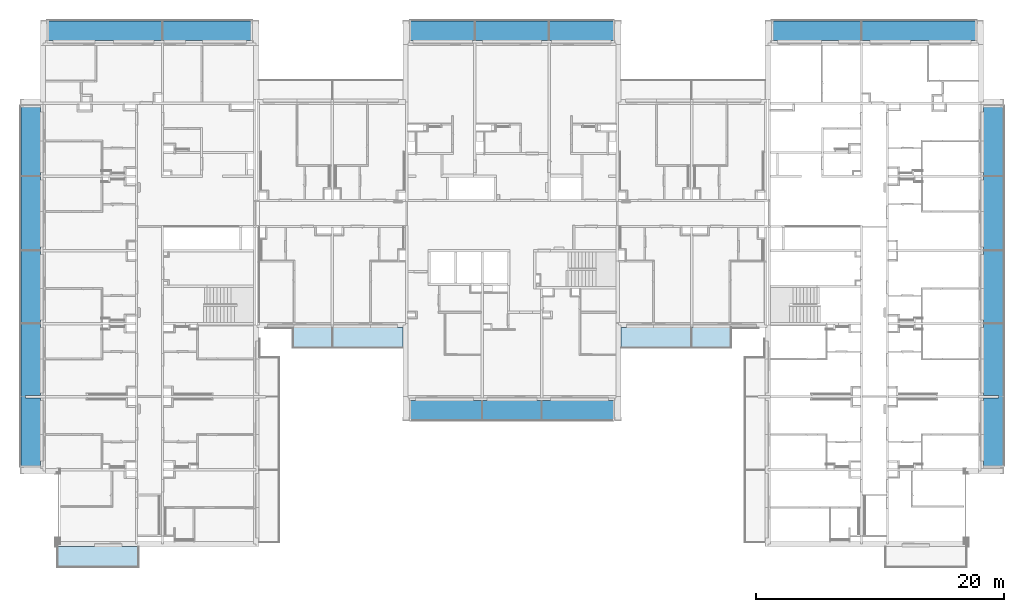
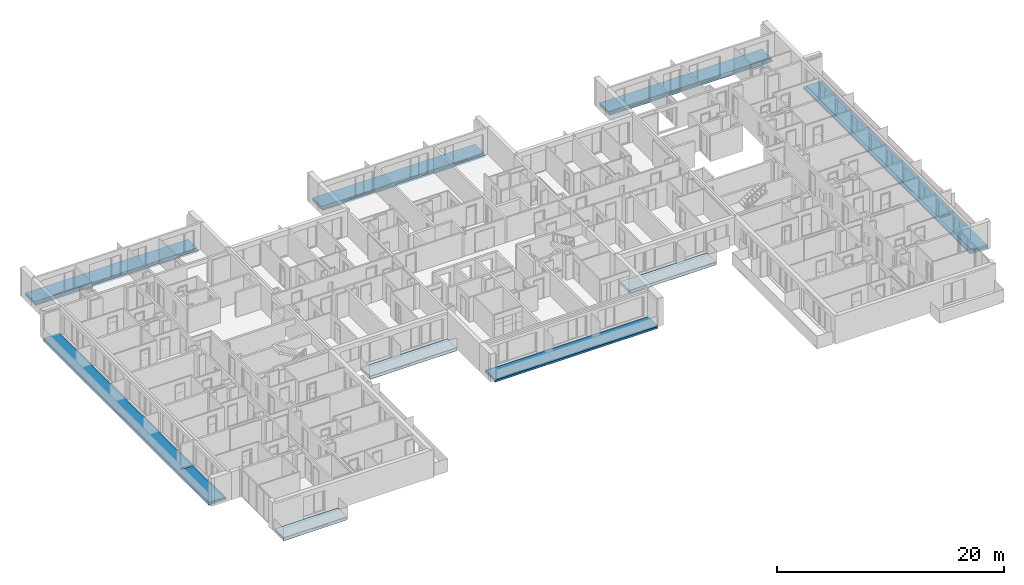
# One storey, part 1 of 66: 6 beams, 3 slabs.
"""IFC2X3 building model written with IfcOpenShell, lengths in millimetres."""

from ifc_helpers import new_model, entity, si_unit, converted_unit, derived_unit, money_unit, direction, frame, origin_with_axes, place, context, subcontext, project, spatial, faceted_brep, material, material_list, type_object, element, save


model = new_model("IFC2X3")

# Units and contexts
model_context = context("Model", 3, precision=0.01, world=origin_with_axes(), true_north=direction((0.34421633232, 0.938890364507)))
body_context = subcontext(model_context, "Body", "Model", "MODEL_VIEW")
ifc_project = project(units=[si_unit("LENGTHUNIT", "METRE", prefix="MILLI"), si_unit("AREAUNIT", "SQUARE_METRE"), si_unit("VOLUMEUNIT", "CUBIC_METRE"), converted_unit("PLANEANGLEUNIT", "DEGREE", entity("IfcPlaneAngleMeasure", 0.0174532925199), si_unit("PLANEANGLEUNIT", "RADIAN"), dimensions=[0, 0, 0, 0, 0, 0, 0]), si_unit("SOLIDANGLEUNIT", "STERADIAN"), money_unit("USD"), converted_unit("TIMEUNIT", "Year", entity("IfcTimeMeasure", 31556926.0), si_unit("TIMEUNIT", "SECOND"), dimensions=[0, 0, 1, 0, 0, 0, 0]), si_unit("MASSUNIT", "GRAM", prefix="KILO"), si_unit("THERMODYNAMICTEMPERATUREUNIT", "DEGREE_CELSIUS"), si_unit("LUMINOUSINTENSITYUNIT", "LUMEN"), si_unit("ENERGYUNIT", "JOULE", prefix="MEGA"), derived_unit("THERMALCONDUCTANCEUNIT", [(si_unit("POWERUNIT", "WATT"), 1), (si_unit("LENGTHUNIT", "METRE"), -1), (si_unit("THERMODYNAMICTEMPERATUREUNIT", "KELVIN"), -1)]), derived_unit("SPECIFICHEATCAPACITYUNIT", [(si_unit("ENERGYUNIT", "JOULE"), 1), (si_unit("MASSUNIT", "GRAM", prefix="KILO"), -1), (si_unit("THERMODYNAMICTEMPERATUREUNIT", "KELVIN"), -1)]), derived_unit("MASSDENSITYUNIT", [(si_unit("MASSUNIT", "GRAM", prefix="KILO"), 1), (si_unit("VOLUMEUNIT", "CUBIC_METRE"), -1)])], contexts=[model_context])

# Site, building, storey
site_placement = place(None, origin_with_axes())
site = spatial("IfcSite", under=ifc_project, at=site_placement, Name="USTRONIE MORSKIE", CompositionType="ELEMENT")
building_placement = place(site_placement, origin_with_axes())
building = spatial("IfcBuilding", under=site, at=building_placement, Name="Budynek", CompositionType="ELEMENT")
storey_placement = place(building_placement, frame((0.0, 0.0, 10000.0), z_axis=(0.0, 0.0, 1.0), x_axis=(1.0, 0.0, 0.0)))
storey = spatial("IfcBuildingStorey", under=building, at=storey_placement, Name="PIĘTRO 3", CompositionType="ELEMENT", Elevation=10000.0)

# Beams
ifc_material_1 = material(Name="Laminat")
ifc_material_2 = material(Name="Membrana przeciwwilgociowa")
ifc_material_3 = material(Name="Blacha ocynkowana")
ifc_material_4 = material(Name="Beton konstrukcyjny B25")
ifc_material_5 = material(Name="Płyty styropianowe twarde HIGH-PRIORITY")
ifc_material_list_1 = material_list([ifc_material_1, ifc_material_2, ifc_material_3, ifc_material_4, ifc_material_5])
beam_type = type_object("IfcBeamType", Name="USTR - balkon_02 1810 x 320", PredefinedType="NOTDEFINED")
beam_1_placement = place(storey_placement, frame((425357.789911, 749551.197031, -360.000001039), z_axis=(0.0, 0.0, 1.0), x_axis=(-9.14543761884e-06, 0.999999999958, 0.0)))
element("IfcBeam", 1, at=beam_1_placement, inside=storey, type_object=beam_type, material=ifc_material_list_1, Name="B1", context=body_context, shape_type="Brep", body=[
    faceted_brep([(1782.49979959, 16579.8526906, 214.999996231), (1782.49979959, 16579.8526906, 309.999996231), (1782.4997996, 0.0, 309.999996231), (1782.4997996, 0.0, 214.999996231), (214.999892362, 16579.867026, 309.999996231), (1757.49989236, 16579.8529192, 214.999996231), (1757.49989236, 16579.8529192, 284.999996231), (214.999892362, 16579.867026, 284.999996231), (214.999892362, 0.0, 309.999996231), (214.999892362, 0.0, 284.999996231), (1757.49989236, 0.0, 284.999996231), (1757.49989236, 0.0, 214.999996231)], [[[0, 1, 2, 3]], [[4, 1, 0, 5, 6, 7]], [[1, 4, 8, 2]], [[3, 2, 8, 9, 10, 11]], [[5, 0, 3, 11]], [[6, 5, 11, 10]], [[7, 6, 10, 9]], [[4, 7, 9, 8]]]),
    faceted_brep([(1799.99979832, 0.0, 209.999997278), (1799.99979832, 16580.0, 209.999997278), (199.999975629, 16580.0, 209.999997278), (199.999975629, 0.0, 209.999997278), (1799.99979832, 0.0, 200.000019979), (1799.99979832, 16580.0, 200.000019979), (199.999975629, 16580.0, 199.999995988), (199.999975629, 0.0, 199.999995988)], [[[0, 1, 2, 3]], [[4, 5, 1, 0]], [[2, 1, 5, 6]], [[3, 2, 6, 7]], [[4, 0, 3, 7]], [[7, 6, 5, 4]]]),
    faceted_brep([(1810.03048454, 0.0, 210.000001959), (1810.03048454, 16580.0, 210.000001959), (1799.99980792, 16580.0, 210.000001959), (1799.99980792, 0.0, 210.000001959), (1810.03048454, 0.0, -10.0000071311), (1810.03048454, 16580.0, -10.0000071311), (209.999402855, 16580.0, -10.0000071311), (209.999887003, 16580.0, 1.52888350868e-05), (1799.99980792, 16580.0, -1.01926307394e-05), (1799.99980792, 0.0, -1.01926307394e-05), (209.999887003, 0.0, 1.52888350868e-05), (209.999402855, 0.0, -10.0000071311)], [[[0, 1, 2, 3]], [[4, 5, 1, 0]], [[2, 1, 5, 6, 7, 8]], [[3, 2, 8, 9]], [[4, 0, 3, 9, 10, 11]], [[11, 6, 5, 4]], [[10, 7, 6, 11]], [[9, 8, 7, 10]]]),
    faceted_brep([(199.999996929, 16580.0, 200.000023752), (99.9999716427, 16580.0, 200.000023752), (99.9999716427, 0.0, 200.000023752), (199.999996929, 0.0, 200.000023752), (1799.99981143, 16580.0, 200.000023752), (1799.99981143, 16580.0, 0.0), (209.999887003, 16580.0, 1.52888350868e-05), (99.9999716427, 16580.0, 0.0), (99.9999716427, 0.0, 0.0), (209.999887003, 0.0, 1.52888350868e-05), (1799.99981143, 0.0, 0.0), (1799.99981143, 0.0, 200.000023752)], [[[0, 1, 2, 3]], [[0, 4, 5, 6, 7, 1]], [[1, 7, 8, 2]], [[3, 2, 8, 9, 10, 11]], [[4, 0, 3, 11]], [[5, 4, 11, 10]], [[6, 5, 10, 9]], [[7, 6, 9, 8]]]),
    faceted_brep([(99.9999724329, 16580.0, 200.000021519), (99.9999724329, 16580.0, 0.0), (0.15345995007, 16580.0, 0.0), (0.15345995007, 16580.0, 200.000021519), (99.9999724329, 0.0, 200.000021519), (99.9999724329, 0.0, 0.0), (1.13686837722e-10, 1215.21576018, 0.0), (0.0, 0.0, 0.0), (-4.76916284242e-06, 1214.39396994, 150.017925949), (1.13686837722e-10, 1215.21575847, 200.000021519), (0.0, 0.0, 200.000021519)], [[[0, 1, 2, 3]], [[1, 0, 4, 5]], [[6, 2, 1, 5, 7]], [[2, 6, 8, 9, 3]], [[0, 3, 9, 10, 4]], [[5, 4, 10, 7]], [[8, 6, 7, 10, 9]]]),
])
beam_2_placement = place(storey_placement, frame((425667.920835, 715201.199036, -360.000001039), z_axis=(0.0, 0.0, 1.0), x_axis=(1.0, 0.0, 0.0)))
element("IfcBeam", 2, at=beam_2_placement, inside=storey, type_object=beam_type, material=ifc_material_list_1, Name="P8", context=body_context, shape_type="Brep", body=[
    faceted_brep([(1420.00008423, 5700.0, 309.999996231), (214.999892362, 5700.0, 309.999996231), (214.999892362, 110.0, 309.999996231), (1782.4997996, 110.0, 309.999996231), (1782.4997996, 29290.0, 309.999996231), (214.999892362, 29290.0, 309.999996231), (214.999892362, 5900.0, 309.999996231), (1420.00008423, 5900.0, 309.999996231), (1420.00008423, 5700.0, 284.999996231), (214.999892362, 5700.0, 284.999996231), (214.999892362, 110.0, 284.999996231), (1782.4997996, 110.0, 214.999996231), (1757.49989236, 110.0, 284.999996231), (1757.49989236, 110.0, 214.999996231), (1782.4997996, 29290.0, 214.999996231), (1757.49989236, 29290.0, 214.999996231), (1757.49989236, 29290.0, 284.999996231), (214.999892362, 29290.0, 284.999996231), (214.999892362, 5900.0, 284.999996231), (1420.00008423, 5900.0, 284.999996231)], [[[0, 1, 2, 3, 4, 5, 6, 7]], [[1, 0, 8, 9]], [[1, 9, 10, 2]], [[11, 3, 2, 10, 12, 13]], [[14, 4, 3, 11]], [[5, 4, 14, 15, 16, 17]], [[18, 6, 5, 17]], [[7, 6, 18, 19]], [[0, 7, 19, 8]], [[19, 18, 17, 16, 12, 10, 9, 8]], [[16, 15, 13, 12]], [[15, 14, 11, 13]]]),
    faceted_brep([(1420.00008423, 5700.0, 209.999997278), (199.99997563, 5700.0, 209.999997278), (199.99997563, 0.0, 209.999997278), (1799.99979832, 0.0, 209.999997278), (1799.99979832, 29400.0, 209.999997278), (199.99997563, 29400.0, 209.999997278), (199.99997563, 5900.0, 209.999997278), (1420.00008423, 5900.0, 209.999997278), (1420.00008423, 5700.0, 200.000001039), (199.99997563, 5700.0, 200.000001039), (199.99997563, 0.0, 199.999995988), (1799.99979832, 0.0, 200.000019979), (1799.99979832, 29400.0, 200.000019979), (199.99997563, 29400.0, 199.999995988), (199.99997563, 5900.0, 200.000001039), (1420.00008423, 5900.0, 200.000001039)], [[[0, 1, 2, 3, 4, 5, 6, 7]], [[1, 0, 8, 9]], [[1, 9, 10, 2]], [[11, 3, 2, 10]], [[11, 12, 4, 3]], [[5, 4, 12, 13]], [[14, 6, 5, 13]], [[7, 6, 14, 15]], [[0, 7, 15, 8]], [[15, 14, 13, 12, 11, 10, 9, 8]]]),
    faceted_brep([(1420.00008423, 5700.0, 1.039014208e-06), (209.999887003, 5700.0, 1.039014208e-06), (209.999887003, 0.0, 1.52888350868e-05), (1799.99980792, 0.0, -1.01926307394e-05), (1799.99980792, 29400.0, -1.01926307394e-05), (209.999887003, 29400.0, 1.52888350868e-05), (209.999887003, 5900.0, 1.039014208e-06), (1420.00008423, 5900.0, 1.039014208e-06), (1420.00008423, 5700.0, -10.0000071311), (209.999402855, 5700.0, -10.0000071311), (209.999402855, 0.0, -10.0000071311), (1810.03048454, 0.0, -10.0000071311), (1810.03048454, 0.0, 210.000001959), (1799.99980792, 0.0, 210.000001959), (1799.99980792, 29400.0, 210.000001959), (1810.03048454, 29400.0, 210.000001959), (1810.03048454, 29400.0, -10.0000071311), (209.999402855, 29400.0, -10.0000071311), (209.999402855, 5900.0, -10.0000071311), (1420.00008423, 5900.0, -10.0000071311)], [[[0, 1, 2, 3, 4, 5, 6, 7]], [[1, 0, 8, 9]], [[1, 9, 10, 2]], [[11, 12, 13, 3, 2, 10]], [[13, 14, 4, 3]], [[14, 15, 16, 17, 5, 4]], [[18, 6, 5, 17]], [[7, 6, 18, 19]], [[0, 7, 19, 8]], [[19, 18, 17, 16, 11, 10, 9, 8]], [[11, 16, 15, 12]], [[12, 15, 14, 13]]]),
    faceted_brep([(199.999996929, 29400.0, 200.000023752), (99.9999716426, 29400.0, 200.000023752), (99.9999716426, 0.0, 200.000023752), (199.999996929, 0.0, 200.000023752), (1799.99981143, 29400.0, 200.000023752), (1799.99981143, 29400.0, 0.0), (209.999887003, 29400.0, 1.52888350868e-05), (99.9999716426, 29400.0, 0.0), (99.9999716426, 0.0, 0.0), (209.999887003, 0.0, 1.52888350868e-05), (1799.99981143, 0.0, 0.0), (1799.99981143, 0.0, 200.000023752)], [[[0, 1, 2, 3]], [[0, 4, 5, 6, 7, 1]], [[1, 7, 8, 2]], [[3, 2, 8, 9, 10, 11]], [[4, 0, 3, 11]], [[5, 4, 11, 10]], [[6, 5, 10, 9]], [[7, 6, 9, 8]]]),
    faceted_brep([(0.0, 0.0, 200.000021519), (0.0, 29400.0, 200.000021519), (0.0, 29400.0, 0.0), (0.0, 0.0, 0.0), (99.9999724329, 0.0, 200.000021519), (99.9999724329, 29400.0, 200.000021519), (99.9999724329, 29400.0, 0.0), (99.9999724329, 0.0, 0.0)], [[[0, 1, 2, 3]], [[4, 5, 1, 0]], [[2, 1, 5, 6]], [[3, 2, 6, 7]], [[4, 0, 3, 7]], [[7, 6, 5, 4]]]),
])
beam_3_placement = place(storey_placement, frame((349967.921003, 715311.199036, -360.000001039), z_axis=(0.0, 0.0, 1.0), x_axis=(1.0, 0.0, 0.0)))
element("IfcBeam", 3, at=beam_3_placement, inside=storey, type_object=beam_type, material=ifc_material_list_1, Name="P8", context=body_context, shape_type="Brep", body=[
    faceted_brep([(-214.999892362, 29180.0, 284.999996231), (-214.999892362, 29180.0, 309.999996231), (-214.999892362, 5790.0, 309.999996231), (-214.999892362, 5790.0, 284.999996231), (-1782.4997996, 29180.0, 309.999996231), (-1757.49989236, 29180.0, 284.999996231), (-1757.49989236, 29180.0, 214.999996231), (-1782.4997996, 29180.0, 214.999996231), (-1782.4997996, 0.0, 309.999996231), (-214.999892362, 0.0, 309.999996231), (-214.999892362, 5590.0, 309.999996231), (-1420.00008423, 5590.0, 309.999996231), (-1420.00008423, 5790.0, 309.999996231), (-1420.00008423, 5790.0, 284.999996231), (-1420.00008423, 5590.0, 284.999996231), (-214.999892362, 5590.0, 284.999996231), (-214.999892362, 0.0, 284.999996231), (-1757.49989236, 0.0, 284.999996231), (-1757.49989236, 0.0, 214.999996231), (-1782.4997996, 0.0, 214.999996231)], [[[0, 1, 2, 3]], [[4, 1, 0, 5, 6, 7]], [[1, 4, 8, 9, 10, 11, 12, 2]], [[3, 2, 12, 13]], [[5, 0, 3, 13, 14, 15, 16, 17]], [[6, 5, 17, 18]], [[7, 6, 18, 19]], [[4, 7, 19, 8]], [[8, 19, 18, 17, 16, 9]], [[15, 10, 9, 16]], [[11, 10, 15, 14]], [[12, 11, 14, 13]]]),
    faceted_brep([(-1420.00008423, 5590.0, 210.000015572), (-1420.00008423, 5790.0, 210.000015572), (-199.99997563, 5790.0, 209.999997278), (-199.99997563, 29290.0, 209.999997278), (-1799.99979832, 29290.0, 209.999997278), (-1799.99979832, 0.0, 209.999997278), (-199.99997563, 0.0, 209.999997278), (-199.99997563, 5590.0, 209.999997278), (-1420.00008423, 5590.0, 200.000001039), (-1420.00008423, 5790.0, 200.000001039), (-199.99997563, 5790.0, 200.000001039), (-199.99997563, 29290.0, 199.999995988), (-1799.99979832, 29290.0, 200.000019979), (-1799.99979832, 0.0, 200.000019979), (-199.99997563, 0.0, 199.999995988), (-199.99997563, 5590.0, 200.000001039)], [[[0, 1, 2, 3, 4, 5, 6, 7]], [[1, 0, 8, 9]], [[10, 2, 1, 9]], [[2, 10, 11, 3]], [[11, 12, 4, 3]], [[5, 4, 12, 13]], [[5, 13, 14, 6]], [[15, 7, 6, 14]], [[0, 7, 15, 8]], [[8, 15, 14, 13, 12, 11, 10, 9]]]),
    faceted_brep([(-1420.00008423, 5590.0, 1.039014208e-06), (-1420.00008423, 5790.0, 1.039014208e-06), (-209.999887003, 5790.0, 1.039014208e-06), (-209.999887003, 29290.0, 1.52888350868e-05), (-1799.99980792, 29290.0, -1.01926289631e-05), (-1799.99980792, 0.0, -1.01926289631e-05), (-209.999887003, 0.0, 1.52888350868e-05), (-209.999887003, 5590.0, 1.039014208e-06), (-1420.00008423, 5590.0, -10.0000071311), (-1420.00008423, 5790.0, -10.0000071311), (-209.999402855, 5790.0, -10.0000071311), (-209.999402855, 29290.0, -10.0000071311), (-1810.03048454, 29290.0, -10.0000071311), (-1810.03048454, 29290.0, 210.000001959), (-1799.99980792, 29290.0, 210.000001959), (-1799.99980792, 0.0, 210.000001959), (-1810.03048454, 0.0, 210.000001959), (-1810.03048454, 0.0, -10.0000071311), (-209.999402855, 0.0, -10.0000071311), (-209.999402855, 5590.0, -10.0000071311)], [[[0, 1, 2, 3, 4, 5, 6, 7]], [[1, 0, 8, 9]], [[10, 2, 1, 9]], [[2, 10, 11, 3]], [[11, 12, 13, 14, 4, 3]], [[5, 4, 14, 15]], [[16, 17, 18, 6, 5, 15]], [[19, 7, 6, 18]], [[0, 7, 19, 8]], [[8, 19, 18, 17, 12, 11, 10, 9]], [[16, 13, 12, 17]], [[15, 14, 13, 16]]]),
    faceted_brep([(-1799.99981143, 29290.0, 200.000023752), (-1799.99981143, 29290.0, 0.0), (-1799.99981143, 0.0, 0.0), (-1799.99981143, 0.0, 200.000023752), (-199.999996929, 29290.0, 200.000023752), (-99.9999716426, 29290.0, 200.000023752), (-99.9999716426, 29290.0, 0.0), (-209.999887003, 29290.0, 1.52888350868e-05), (-209.999887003, 0.0, 1.52888350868e-05), (-99.9999716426, 0.0, 0.0), (-99.9999716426, 0.0, 200.000023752), (-199.999996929, 0.0, 200.000023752)], [[[0, 1, 2, 3]], [[0, 4, 5, 6, 7, 1]], [[1, 7, 8, 2]], [[3, 2, 8, 9, 10, 11]], [[4, 0, 3, 11]], [[5, 4, 11, 10]], [[6, 5, 10, 9]], [[7, 6, 9, 8]]]),
    faceted_brep([(-99.9999724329, 0.0, 200.000021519), (-99.9999724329, 29290.0, 200.000021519), (-99.9999724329, 29290.0, 0.0), (-99.9999724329, 0.0, 0.0), (0.0, 0.0, 200.000021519), (0.0, 29290.0, 200.000021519), (0.0, 29290.0, 0.0), (0.0, 0.0, 0.0)], [[[0, 1, 2, 3]], [[4, 5, 1, 0]], [[2, 1, 5, 6]], [[3, 2, 6, 7]], [[4, 0, 3, 7]], [[7, 6, 5, 4]]]),
])
beam_4_placement = place(storey_placement, frame((396107.920919, 720901.19912, -360.000001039), z_axis=(0.0, 0.0, 1.0), x_axis=(0.0, 1.0, 0.0)))
element("IfcBeam", 4, at=beam_4_placement, inside=storey, type_object=beam_type, material=ifc_material_list_1, Name="P8", context=body_context, shape_type="Brep", body=[
    faceted_brep([(-1782.4997996, 0.0, 214.999996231), (-1782.4997996, 16580.0, 214.999996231), (-1757.49989236, 16580.0, 214.999996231), (-1757.49989236, 0.0, 214.999996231), (-1782.4997996, 0.0, 309.999996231), (-1782.4997996, 16580.0, 309.999996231), (-214.999892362, 16580.0, 309.999996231), (-214.999892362, 16580.0, 284.999996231), (-1757.49989236, 16580.0, 284.999996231), (-1757.49989236, 0.0, 284.999996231), (-214.999892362, 0.0, 284.999996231), (-214.999892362, 0.0, 309.999996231)], [[[0, 1, 2, 3]], [[4, 5, 1, 0]], [[2, 1, 5, 6, 7, 8]], [[3, 2, 8, 9]], [[4, 0, 3, 9, 10, 11]], [[11, 6, 5, 4]], [[10, 7, 6, 11]], [[9, 8, 7, 10]]]),
    faceted_brep([(-1799.99979832, 0.0, 200.000019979), (-1799.99979832, 16580.0, 200.000019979), (-199.99997563, 16580.0, 199.999995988), (-199.99997563, 0.0, 199.999995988), (-1799.99979832, 0.0, 209.999997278), (-1799.99979832, 16580.0, 209.999997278), (-199.99997563, 16580.0, 209.999997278), (-199.99997563, 0.0, 209.999997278)], [[[0, 1, 2, 3]], [[4, 5, 1, 0]], [[2, 1, 5, 6]], [[3, 2, 6, 7]], [[4, 0, 3, 7]], [[7, 6, 5, 4]]]),
    faceted_brep([(-1810.03048454, 0.0, -10.0000071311), (-1810.03048454, 16580.0, -10.0000071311), (-209.999402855, 16580.0, -10.0000071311), (-209.999402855, 0.0, -10.0000071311), (-1810.03048454, 0.0, 210.000001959), (-1810.03048454, 16580.0, 210.000001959), (-1799.99980792, 16580.0, 210.000001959), (-1799.99980792, 16580.0, -1.01926289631e-05), (-209.999887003, 16580.0, 1.52888350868e-05), (-209.999887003, 0.0, 1.52888350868e-05), (-1799.99980792, 0.0, -1.01926289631e-05), (-1799.99980792, 0.0, 210.000001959)], [[[0, 1, 2, 3]], [[4, 5, 1, 0]], [[2, 1, 5, 6, 7, 8]], [[3, 2, 8, 9]], [[4, 0, 3, 9, 10, 11]], [[11, 6, 5, 4]], [[10, 7, 6, 11]], [[9, 8, 7, 10]]]),
    faceted_brep([(-1799.99981143, 16580.0, 200.000023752), (-1799.99981143, 16580.0, 0.0), (-1799.99981143, 0.0, 0.0), (-1799.99981143, 0.0, 200.000023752), (-199.999996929, 16580.0, 200.000023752), (-99.9999716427, 16580.0, 200.000023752), (-99.9999716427, 16580.0, 0.0), (-209.999887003, 16580.0, 1.52888350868e-05), (-209.999887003, 0.0, 1.52888350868e-05), (-99.9999716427, 0.0, 0.0), (-99.9999716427, 0.0, 200.000023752), (-199.999996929, 0.0, 200.000023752)], [[[0, 1, 2, 3]], [[0, 4, 5, 6, 7, 1]], [[1, 7, 8, 2]], [[3, 2, 8, 9, 10, 11]], [[4, 0, 3, 11]], [[5, 4, 11, 10]], [[6, 5, 10, 9]], [[7, 6, 9, 8]]]),
    faceted_brep([(-99.9999724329, 0.0, 200.000021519), (-99.9999724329, 16580.0, 200.000021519), (-99.9999724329, 16580.0, 0.0), (-99.9999724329, 0.0, 0.0), (0.0, 0.0, 200.000021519), (0.0, 16580.0, 200.000021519), (0.0, 16580.0, 0.0), (0.0, 0.0, 0.0)], [[[0, 1, 2, 3]], [[4, 5, 1, 0]], [[2, 1, 5, 6]], [[3, 2, 6, 7]], [[4, 0, 3, 7]], [[7, 6, 5, 4]]]),
])
beam_5_placement = place(storey_placement, frame((350278.051927, 749551.197031, -360.000001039), z_axis=(0.0, 0.0, 1.0), x_axis=(-9.14543761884e-06, -0.999999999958, 0.0)))
element("IfcBeam", 5, at=beam_5_placement, inside=storey, type_object=beam_type, material=ifc_material_list_1, Name="B1", context=body_context, shape_type="Brep", body=[
    faceted_brep([(-214.999892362, 16579.867026, 309.999996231), (-1782.49979959, 16579.8526906, 309.999996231), (-1782.49979959, 0.0, 309.999996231), (-214.999892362, 0.0, 309.999996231), (-1782.49979959, 16579.8526906, 214.999996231), (-214.999892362, 16579.867026, 284.999996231), (-1757.49989236, 16579.8529192, 284.999996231), (-1757.49989236, 16579.8529192, 214.999996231), (-1782.49979959, 0.0, 214.999996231), (-1757.49989236, 0.0, 214.999996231), (-1757.49989236, 0.0, 284.999996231), (-214.999892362, 0.0, 284.999996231)], [[[0, 1, 2, 3]], [[4, 1, 0, 5, 6, 7]], [[1, 4, 8, 2]], [[2, 8, 9, 10, 11, 3]], [[5, 0, 3, 11]], [[6, 5, 11, 10]], [[7, 6, 10, 9]], [[4, 7, 9, 8]]]),
    faceted_brep([(-1799.99979832, 0.0, 200.000019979), (-1799.99979832, 16580.0, 200.000019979), (-199.999975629, 16580.0, 199.999995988), (-199.999975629, 0.0, 199.999995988), (-1799.99979832, 0.0, 209.999997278), (-1799.99979832, 16580.0, 209.999997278), (-199.999975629, 16580.0, 209.999997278), (-199.999975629, 0.0, 209.999997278)], [[[0, 1, 2, 3]], [[4, 5, 1, 0]], [[2, 1, 5, 6]], [[3, 2, 6, 7]], [[4, 0, 3, 7]], [[7, 6, 5, 4]]]),
    faceted_brep([(-1810.03048454, 0.0, -10.0000071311), (-1810.03048454, 16580.0, -10.0000071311), (-209.999402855, 16580.0, -10.0000071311), (-209.999402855, 0.0, -10.0000071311), (-1810.03048454, 0.0, 210.000001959), (-1810.03048454, 16580.0, 210.000001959), (-1799.99980792, 16580.0, 210.000001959), (-1799.99980792, 16580.0, -1.01926289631e-05), (-209.999887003, 16580.0, 1.52888350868e-05), (-209.999887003, 0.0, 1.52888350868e-05), (-1799.99980792, 0.0, -1.01926289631e-05), (-1799.99980792, 0.0, 210.000001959)], [[[0, 1, 2, 3]], [[4, 5, 1, 0]], [[2, 1, 5, 6, 7, 8]], [[3, 2, 8, 9]], [[4, 0, 3, 9, 10, 11]], [[11, 6, 5, 4]], [[10, 7, 6, 11]], [[9, 8, 7, 10]]]),
    faceted_brep([(-1799.99981143, 16580.0, 200.000023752), (-1799.99981143, 16580.0, 0.0), (-1799.99981143, 0.0, 0.0), (-1799.99981143, 0.0, 200.000023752), (-199.999996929, 16580.0, 200.000023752), (-99.9999716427, 16580.0, 200.000023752), (-99.9999716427, 16580.0, 0.0), (-209.999887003, 16580.0, 1.52888350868e-05), (-209.999887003, 0.0, 1.52888350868e-05), (-99.9999716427, 0.0, 0.0), (-99.9999716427, 0.0, 200.000023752), (-199.999996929, 0.0, 200.000023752)], [[[0, 1, 2, 3]], [[0, 4, 5, 6, 7, 1]], [[1, 7, 8, 2]], [[3, 2, 8, 9, 10, 11]], [[4, 0, 3, 11]], [[5, 4, 11, 10]], [[6, 5, 10, 9]], [[7, 6, 9, 8]]]),
    faceted_brep([(-0.00200537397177, 0.0, 200.000001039), (-0.153636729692, 16580.0, 200.000001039), (-99.9999724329, 16580.0, 200.000021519), (-99.9999724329, 0.0, 200.000021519), (-0.153636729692, 16580.0, 0.0), (-0.00200537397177, 0.0, 0.0), (-0.0494689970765, 5189.86899138, 1.039014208e-06), (-0.0512980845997, 5389.86899137, 1.039014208e-06), (-0.104341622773, 11189.8689911, 1.039014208e-06), (-0.106170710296, 11389.8689911, 1.039014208e-06), (-99.9999724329, 16580.0, 0.0), (-99.9999724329, 0.0, 0.0)], [[[0, 1, 2, 3]], [[4, 1, 0, 5, 6, 7, 8, 9]], [[1, 4, 10, 2]], [[10, 11, 3, 2]], [[5, 0, 3, 11]], [[6, 5, 11, 10, 4, 9, 8, 7]]]),
])
beam_6_placement = place(storey_placement, frame((396107.789911, 749551.197031, -360.000001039), z_axis=(0.0, 0.0, 1.0), x_axis=(-9.14543761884e-06, 0.999999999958, 0.0)))
element("IfcBeam", 6, at=beam_6_placement, inside=storey, type_object=beam_type, material=ifc_material_list_1, Name="P8", context=body_context, shape_type="Brep", body=[
    faceted_brep([(1782.49979959, 16579.8526906, 214.999996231), (1782.49979959, 16579.8526906, 309.999996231), (1782.49979959, 0.0, 309.999996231), (1782.49979959, 0.0, 214.999996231), (214.999892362, 16579.867026, 309.999996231), (1757.49989236, 16579.8529192, 214.999996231), (1757.49989236, 16579.8529192, 284.999996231), (214.999892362, 16579.867026, 284.999996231), (214.999892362, 0.0, 309.999996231), (214.999892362, 0.0, 284.999996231), (1757.49989236, 0.0, 284.999996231), (1757.49989236, 0.0, 214.999996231)], [[[0, 1, 2, 3]], [[4, 1, 0, 5, 6, 7]], [[1, 4, 8, 2]], [[3, 2, 8, 9, 10, 11]], [[5, 0, 3, 11]], [[6, 5, 11, 10]], [[7, 6, 10, 9]], [[4, 7, 9, 8]]]),
    faceted_brep([(1799.99979832, 0.0, 209.999997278), (1799.99979832, 16580.0, 209.999997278), (199.999975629, 16580.0, 209.999997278), (199.999975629, 0.0, 209.999997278), (1799.99979832, 0.0, 200.000019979), (1799.99979832, 16580.0, 200.000019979), (199.999975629, 16580.0, 199.999995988), (199.999975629, 0.0, 199.999995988)], [[[0, 1, 2, 3]], [[4, 5, 1, 0]], [[2, 1, 5, 6]], [[3, 2, 6, 7]], [[4, 0, 3, 7]], [[7, 6, 5, 4]]]),
    faceted_brep([(1810.03048454, 0.0, 210.000001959), (1810.03048454, 16580.0, 210.000001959), (1799.99980792, 16580.0, 210.000001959), (1799.99980792, 0.0, 210.000001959), (1810.03048454, 0.0, -10.0000071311), (1810.03048454, 16580.0, -10.0000071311), (209.999402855, 16580.0, -10.0000071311), (209.999887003, 16580.0, 1.52888350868e-05), (1799.99980792, 16580.0, -1.01926307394e-05), (1799.99980792, 0.0, -1.01926307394e-05), (209.999887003, 0.0, 1.52888350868e-05), (209.999402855, 0.0, -10.0000071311)], [[[0, 1, 2, 3]], [[4, 5, 1, 0]], [[2, 1, 5, 6, 7, 8]], [[3, 2, 8, 9]], [[4, 0, 3, 9, 10, 11]], [[11, 6, 5, 4]], [[10, 7, 6, 11]], [[9, 8, 7, 10]]]),
    faceted_brep([(199.999996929, 16580.0, 200.000023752), (99.9999716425, 16580.0, 200.000023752), (99.9999716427, 0.0, 200.000023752), (199.999996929, 0.0, 200.000023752), (1799.99981143, 16580.0, 200.000023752), (1799.99981143, 16580.0, 0.0), (209.999887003, 16580.0, 1.52888350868e-05), (99.9999716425, 16580.0, 0.0), (99.9999716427, 0.0, 0.0), (209.999887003, 0.0, 1.52888350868e-05), (1799.99981143, 0.0, 0.0), (1799.99981143, 0.0, 200.000023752)], [[[0, 1, 2, 3]], [[0, 4, 5, 6, 7, 1]], [[1, 7, 8, 2]], [[3, 2, 8, 9, 10, 11]], [[4, 0, 3, 11]], [[5, 4, 11, 10]], [[6, 5, 10, 9]], [[7, 6, 9, 8]]]),
    faceted_brep([(0.153636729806, 16580.0, 200.000001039), (0.00200537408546, 0.0, 200.000001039), (99.9999724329, 0.0, 200.000021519), (99.9999724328, 16580.0, 200.000021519), (0.00200537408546, 0.0, 0.0), (0.153636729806, 16580.0, 0.0), (0.10617071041, 11389.8689911, 1.039014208e-06), (0.104341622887, 11189.8689911, 1.039014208e-06), (0.0512980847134, 5389.86899137, 1.039014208e-06), (0.0494689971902, 5189.86899138, 1.039014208e-06), (99.9999724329, 0.0, 0.0), (99.9999724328, 16580.0, 0.0)], [[[0, 1, 2, 3]], [[4, 1, 0, 5, 6, 7, 8, 9]], [[1, 4, 10, 2]], [[3, 2, 10, 11]], [[5, 0, 3, 11]], [[6, 5, 11, 10, 4, 9, 8, 7]]]),
])

# Slabs
ifc_material_6 = material(Name="Płytki okładzinowe")
ifc_material_7 = material(Name="Pustka powietrzna")
ifc_material_list_2 = material_list([ifc_material_6, ifc_material_7, ifc_material_2, ifc_material_4, ifc_material_1])
slab_type = type_object("IfcSlabType", Name="Balkony na HALFENACH 330", PredefinedType="FLOOR")
slab_1_placement = place(storey_placement, frame((351167.920919, 707301.199036, -50.0), z_axis=(0.0, 0.0, 1.0), x_axis=(1.0, 0.0, 0.0)))
element("IfcSlab", 7, at=slab_1_placement, inside=storey, type_object=slab_type, material=ifc_material_list_2, Name="P3", PredefinedType="FLOOR", context=body_context, shape_type="Brep", body=[
    faceted_brep([(6450.0, 0.0, -25.0), (6450.0, 0.0, 0.0), (0.0, 0.0, 0.0), (0.0, 0.0, -25.0), (6450.0, 1600.0, -25.0), (6450.0, 1600.0, 0.0), (0.0, 1600.0, 0.0), (0.0, 1600.0, -25.0)], [[[0, 1, 2, 3]], [[4, 5, 1, 0]], [[2, 1, 5, 6]], [[3, 2, 6, 7]], [[3, 7, 4, 0]], [[7, 6, 5, 4]]]),
    faceted_brep([(6450.0, 0.0, -105.0), (6450.0, 0.0, -25.0), (0.0, 0.0, -25.0), (0.0, 0.0, -105.0), (6450.0, 1600.0, -105.0), (6450.0, 1600.0, -25.0), (0.0, 1600.0, -25.0), (0.0, 1600.0, -105.0)], [[[0, 1, 2, 3]], [[4, 5, 1, 0]], [[2, 1, 5, 6]], [[3, 2, 6, 7]], [[3, 7, 4, 0]], [[7, 6, 5, 4]]]),
    faceted_brep([(6450.0, 0.0, -110.0), (6450.0, 0.0, -105.0), (0.0, 0.0, -105.0), (0.0, 0.0, -110.0), (6450.0, 1600.0, -110.0), (6450.0, 1600.0, -105.0), (0.0, 1600.0, -105.0), (0.0, 1600.0, -110.0)], [[[0, 1, 2, 3]], [[4, 5, 1, 0]], [[2, 1, 5, 6]], [[3, 2, 6, 7]], [[3, 7, 4, 0]], [[7, 6, 5, 4]]]),
    faceted_brep([(6450.0, 0.0, -310.0), (6450.0, 0.0, -110.0), (0.0, 0.0, -110.0), (0.0, 0.0, -310.0), (6450.0, 1600.0, -310.0), (6450.0, 1600.0, -110.0), (0.0, 1600.0, -110.0), (0.0, 1600.0, -310.0)], [[[0, 1, 2, 3]], [[4, 5, 1, 0]], [[2, 1, 5, 6]], [[3, 2, 6, 7]], [[3, 7, 4, 0]], [[7, 6, 5, 4]]]),
    faceted_brep([(6450.0, 1590.0, -330.0), (6450.0, 1590.0, -310.0), (6450.0, 0.0, -310.0), (6450.0, 0.0, -330.0), (0.0, 1590.0, -310.0), (0.0, 1590.0, -330.0), (0.0, 0.0, -310.0), (0.0, 0.0, -330.0)], [[[0, 1, 2, 3]], [[4, 1, 0, 5]], [[1, 4, 6, 2]], [[6, 7, 3, 2]], [[5, 0, 3, 7]], [[4, 5, 7, 6]]]),
])
slab_2_placement = place(storey_placement, frame((396619.368925, 725001.198359, -50.0), z_axis=(0.0, 0.0, 1.0), x_axis=(1.0, 0.0, 0.0)))
element("IfcSlab", 8, at=slab_2_placement, inside=storey, type_object=slab_type, material=ifc_material_list_2, Name="P3", PredefinedType="FLOOR", context=body_context, shape_type="Brep", body=[
    faceted_brep([(0.0, 0.0, -25.0), (8838.54486123, 0.0, -25.0), (8838.54486123, 0.0, 0.0), (0.0, 0.0, 0.0), (-1.44800593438, 1600.00067759, -25.0), (8838.54486123, 1600.00067759, -25.0), (8838.54486123, 1600.00067759, 0.0), (-1.44800593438, 1600.00067759, 0.0)], [[[0, 1, 2, 3]], [[1, 0, 4, 5]], [[1, 5, 6, 2]], [[7, 3, 2, 6]], [[4, 0, 3, 7]], [[5, 4, 7, 6]]]),
    faceted_brep([(0.0, 0.0, -105.0), (8838.54486123, 0.0, -105.0), (8838.54486123, 0.0, -25.0), (0.0, 0.0, -25.0), (-1.44800593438, 1600.00067759, -105.0), (8838.54486123, 1600.00067759, -105.0), (8838.54486123, 1600.00067759, -25.0), (-1.44800593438, 1600.00067759, -25.0)], [[[0, 1, 2, 3]], [[1, 0, 4, 5]], [[1, 5, 6, 2]], [[7, 3, 2, 6]], [[4, 0, 3, 7]], [[5, 4, 7, 6]]]),
    faceted_brep([(0.0, 0.0, -110.0), (8838.54486123, 0.0, -110.0), (8838.54486123, 0.0, -105.0), (0.0, 0.0, -105.0), (-1.44800593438, 1600.00067759, -110.0), (8838.54486123, 1600.00067759, -110.0), (8838.54486123, 1600.00067759, -105.0), (-1.44800593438, 1600.00067759, -105.0)], [[[0, 1, 2, 3]], [[1, 0, 4, 5]], [[1, 5, 6, 2]], [[7, 3, 2, 6]], [[4, 0, 3, 7]], [[5, 4, 7, 6]]]),
    faceted_brep([(8838.54486123, 0.0, -310.0), (8838.54486123, 0.0, -110.0), (0.0, 0.0, -110.0), (0.0, 0.0, -310.0), (8838.54486123, 1600.00067759, -310.0), (8838.54486123, 1600.00067759, -110.0), (-1.44800593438, 1600.00067759, -110.0), (-1.44800593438, 1600.00067759, -310.0)], [[[0, 1, 2, 3]], [[4, 5, 1, 0]], [[2, 1, 5, 6]], [[3, 2, 6, 7]], [[3, 7, 4, 0]], [[7, 6, 5, 4]]]),
    faceted_brep([(8838.54486123, 1590.00067759, -330.0), (8838.54486123, 1590.00067759, -310.0), (8838.54486123, 0.0, -310.0), (8838.54486123, 0.0, -330.0), (8.55199406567, 1590.00067759, -310.0), (8.55199406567, 1590.00067759, -330.0), (8.55199406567, 0.0, -310.0), (8.55199406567, 0.0, -330.0)], [[[0, 1, 2, 3]], [[4, 1, 0, 5]], [[1, 4, 6, 2]], [[6, 7, 3, 2]], [[5, 0, 3, 7]], [[4, 5, 7, 6]]]),
])
slab_3_placement = place(storey_placement, frame((379017.007244, 725001.198359, -50.0), z_axis=(0.0, 0.0, 1.0), x_axis=(1.0, 0.0, 0.0)))
element("IfcSlab", 9, at=slab_3_placement, inside=storey, type_object=slab_type, material=ifc_material_list_2, Name="P3", PredefinedType="FLOOR", context=body_context, shape_type="Brep", body=[
    faceted_brep([(0.0, 0.0, -25.0), (1.44800593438, 1600.00067759, -25.0), (1.44800593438, 1600.00067759, 0.0), (0.0, 0.0, 0.0), (-8839.06697482, 0.0, -25.0), (-8839.06697482, 1600.00067759, -25.0), (-8839.06697482, 1600.00067759, 0.0), (-8839.06697482, 0.0, 0.0)], [[[0, 1, 2, 3]], [[1, 0, 4, 5]], [[1, 5, 6, 2]], [[7, 3, 2, 6]], [[4, 0, 3, 7]], [[5, 4, 7, 6]]]),
    faceted_brep([(0.0, 0.0, -105.0), (1.44800593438, 1600.00067759, -105.0), (1.44800593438, 1600.00067759, -25.0), (0.0, 0.0, -25.0), (-8839.06697482, 0.0, -105.0), (-8839.06697482, 1600.00067759, -105.0), (-8839.06697482, 1600.00067759, -25.0), (-8839.06697482, 0.0, -25.0)], [[[0, 1, 2, 3]], [[1, 0, 4, 5]], [[1, 5, 6, 2]], [[7, 3, 2, 6]], [[4, 0, 3, 7]], [[5, 4, 7, 6]]]),
    faceted_brep([(0.0, 0.0, -110.0), (1.44800593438, 1600.00067759, -110.0), (1.44800593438, 1600.00067759, -105.0), (0.0, 0.0, -105.0), (-8839.06697482, 0.0, -110.0), (-8839.06697482, 1600.00067759, -110.0), (-8839.06697482, 1600.00067759, -105.0), (-8839.06697482, 0.0, -105.0)], [[[0, 1, 2, 3]], [[1, 0, 4, 5]], [[1, 5, 6, 2]], [[7, 3, 2, 6]], [[4, 0, 3, 7]], [[5, 4, 7, 6]]]),
    faceted_brep([(1.44800593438, 1600.00067759, -310.0), (1.44800593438, 1600.00067759, -110.0), (0.0, 0.0, -110.0), (0.0, 0.0, -310.0), (-8839.06697482, 1600.00067759, -310.0), (-8839.06697482, 1600.00067759, -110.0), (-8839.06697482, 0.0, -110.0), (-8839.06697482, 0.0, -310.0)], [[[0, 1, 2, 3]], [[4, 5, 1, 0]], [[2, 1, 5, 6]], [[3, 2, 6, 7]], [[3, 7, 4, 0]], [[7, 6, 5, 4]]]),
    faceted_brep([(-9.08632519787, 1590.00067759, -330.0), (-9.08632519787, 1590.00067759, -310.0), (-9.08632519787, 0.0, -310.0), (-9.08632519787, 0.0, -330.0), (-8839.06697482, 1590.00067759, -310.0), (-8839.06697482, 1590.00067759, -330.0), (-8839.06697482, 0.0, -310.0), (-8839.06697482, 0.0, -330.0)], [[[0, 1, 2, 3]], [[4, 1, 0, 5]], [[1, 4, 6, 2]], [[3, 2, 6, 7]], [[5, 0, 3, 7]], [[4, 5, 7, 6]]]),
])

save(model, "model.ifc")
